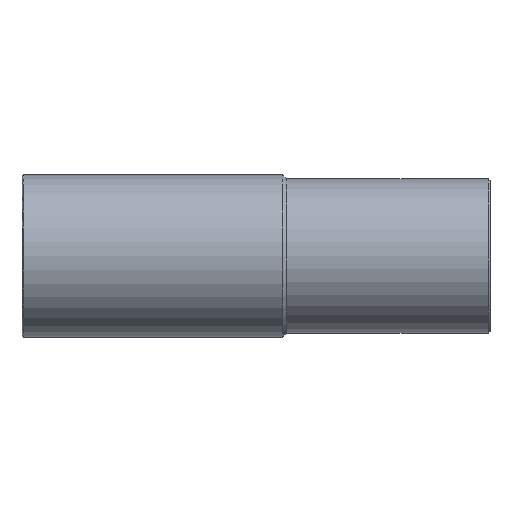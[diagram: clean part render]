
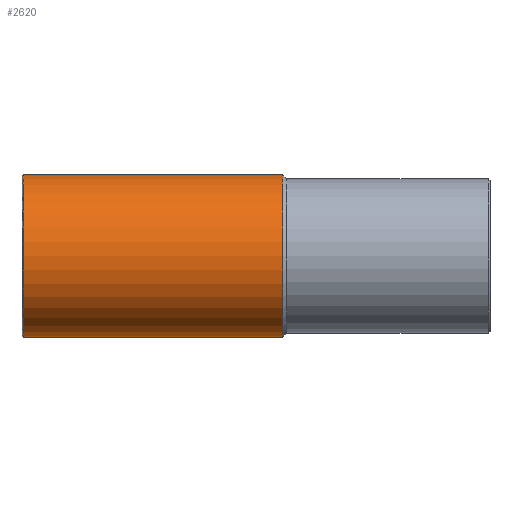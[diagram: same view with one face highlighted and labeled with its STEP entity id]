
A CAD part, top view. The second image highlights one B-rep face of the part: STEP entity #2620.
In plain terms, the highlighted cylindrical face has radius 40 mm (diameter 80 mm), a partial arc.
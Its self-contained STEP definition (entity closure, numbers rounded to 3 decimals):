
#500=CARTESIAN_POINT('',(-314.399,104.024,
0.));
#510=VERTEX_POINT('',#500);
#540=CARTESIAN_POINT('',(-314.399,64.024,0.));
#550=DIRECTION('',(-1.,0.,0.));
#560=DIRECTION('',(0.,1.,0.));
#570=AXIS2_PLACEMENT_3D('',#540,#550,#560);
#580=CIRCLE('',#570,40.);
#590=CARTESIAN_POINT('',(-314.399,24.024,0.));
#600=VERTEX_POINT('',#590);
#610=EDGE_CURVE('',#600,#510,#580,.T.);
#2180=CARTESIAN_POINT('',(-186.849,104.024,0.));
#2190=VERTEX_POINT('',#2180);
#2270=CARTESIAN_POINT('',(-186.849,24.024,
0.));
#2280=VERTEX_POINT('',#2270);
#2310=CARTESIAN_POINT('',(-186.849,64.024,0.));
#2320=DIRECTION('',(-1.,0.,0.));
#2330=DIRECTION('',(0.,1.,0.));
#2340=AXIS2_PLACEMENT_3D('',#2310,#2320,#2330);
#2350=CIRCLE('',#2340,40.);
#2360=EDGE_CURVE('',#2280,#2190,#2350,.T.);
#2410=CARTESIAN_POINT('',(-250.624,64.024,0.));
#2420=DIRECTION('',(1.,0.,0.));
#2430=DIRECTION('',(0.,-1.,0.));
#2440=AXIS2_PLACEMENT_3D('',#2410,#2420,#2430);
#2450=CYLINDRICAL_SURFACE('',#2440,40.);
#2460=CARTESIAN_POINT('',(-250.624,104.024,
0.));
#2470=DIRECTION('',(1.,0.,0.));
#2480=VECTOR('',#2470,1.);
#2490=LINE('',#2460,#2480);
#2500=EDGE_CURVE('',#510,#2190,#2490,.T.);
#2510=ORIENTED_EDGE('',*,*,#2500,.F.);
#2520=ORIENTED_EDGE('',*,*,#2360,.T.);
#2530=CARTESIAN_POINT('',(-250.624,24.024,0.));
#2540=DIRECTION('',(1.,0.,0.));
#2550=VECTOR('',#2540,1.);
#2560=LINE('',#2530,#2550);
#2570=EDGE_CURVE('',#600,#2280,#2560,.T.);
#2580=ORIENTED_EDGE('',*,*,#2570,.T.);
#2590=ORIENTED_EDGE('',*,*,#610,.F.);
#2600=EDGE_LOOP('',(#2590,#2580,#2520,#2510));
#2610=FACE_OUTER_BOUND('',#2600,.T.);
#2620=ADVANCED_FACE('',(#2610),#2450,.T.);
